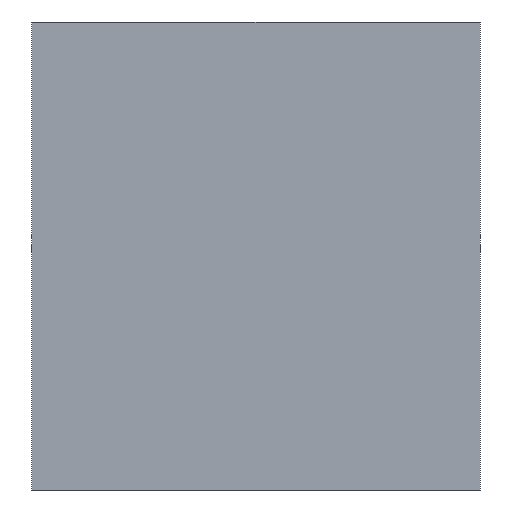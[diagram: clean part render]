
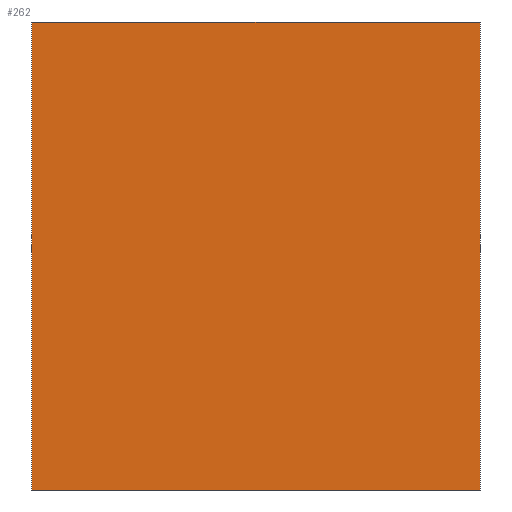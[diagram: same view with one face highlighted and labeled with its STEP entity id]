
A CAD part, front view. The second image highlights one B-rep face of the part: STEP entity #262.
In plain terms, the highlighted planar face has unit normal (0, -1, 0).
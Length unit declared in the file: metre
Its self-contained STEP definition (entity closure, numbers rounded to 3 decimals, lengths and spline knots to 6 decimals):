
#32=ORIENTED_EDGE('',*,*,#98,.F.);
#33=ORIENTED_EDGE('',*,*,#99,.T.);
#34=ORIENTED_EDGE('',*,*,#88,.T.);
#35=ORIENTED_EDGE('',*,*,#84,.T.);
#84=EDGE_CURVE('',#120,#121,#144,.F.);
#88=EDGE_CURVE('',#124,#120,#148,.T.);
#98=EDGE_CURVE('',#131,#121,#158,.F.);
#99=EDGE_CURVE('',#131,#124,#159,.T.);
#120=VERTEX_POINT('',#368);
#121=VERTEX_POINT('',#369);
#124=VERTEX_POINT('',#377);
#131=VERTEX_POINT('',#395);
#144=LINE('',#367,#180);
#148=LINE('',#376,#184);
#158=LINE('',#396,#194);
#159=LINE('',#398,#195);
#180=VECTOR('',#303,1.);
#184=VECTOR('',#309,1.);
#194=VECTOR('',#323,1.);
#195=VECTOR('',#326,1.);
#220=EDGE_LOOP('',(#32,#33,#34,#35));
#234=FACE_BOUND('',#220,.T.);
#248=PLANE('',#289);
#262=ADVANCED_FACE('',(#234),#248,.F.);
#289=AXIS2_PLACEMENT_3D('',#397,#324,#325);
#303=DIRECTION('',(1.,0.,0.));
#309=DIRECTION('',(0.,0.,1.));
#323=DIRECTION('',(0.,0.,-1.));
#324=DIRECTION('',(0.,1.,0.));
#325=DIRECTION('',(0.,0.,1.));
#326=DIRECTION('',(1.,0.,0.));
#367=CARTESIAN_POINT('',(0.0079,0.0046,-0.01115));
#368=CARTESIAN_POINT('',(0.0079,0.0046,-0.01115));
#369=CARTESIAN_POINT('',(-0.0079,0.0046,-0.01115));
#376=CARTESIAN_POINT('',(0.0079,0.0046,-0.050815));
#377=CARTESIAN_POINT('',(0.0079,0.0046,-0.02765));
#395=CARTESIAN_POINT('',(-0.0079,0.0046,-0.02765));
#396=CARTESIAN_POINT('',(-0.0079,0.0046,-0.050815));
#397=CARTESIAN_POINT('',(0.0079,0.0046,-0.050815));
#398=CARTESIAN_POINT('',(0.0079,0.0046,-0.02765));
